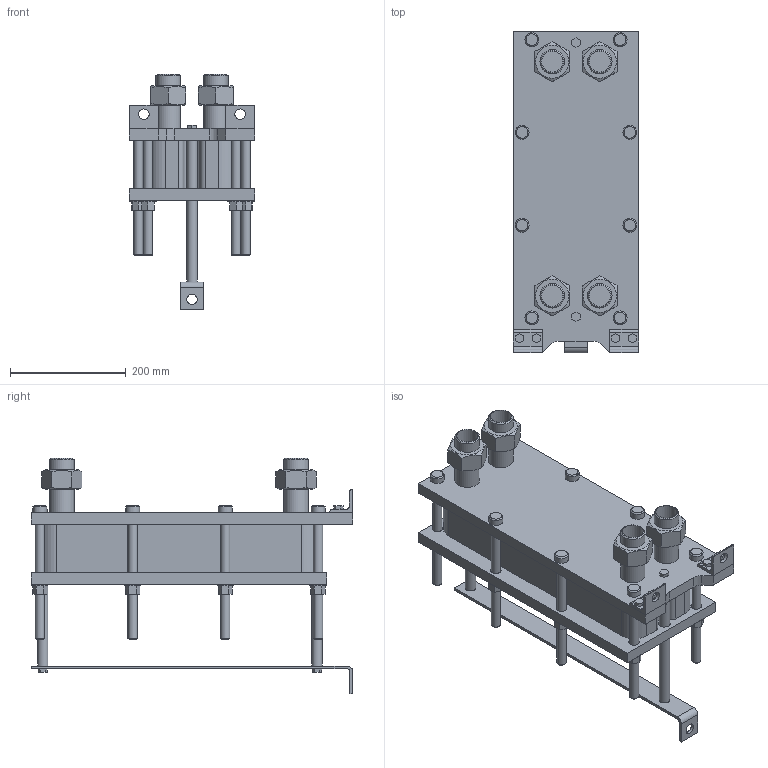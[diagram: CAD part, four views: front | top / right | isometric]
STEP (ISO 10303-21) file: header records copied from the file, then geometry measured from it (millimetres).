
FILE_DESCRIPTION(/* description */ (''),/* implementation_level */ '2;1');
FILE_NAME(/* name */ 'C:\Users\zhuro\Desktop\ENCO\TO\ЭН-004\ЭН-0,5-004-27-1.stp',/* time_stamp */ '2022-06-06T10:45:29+03:00',/* author */ ('zhuro'),/* organization */ (''),/* preprocessor_version */ 'ST-DEVELOPER v18.1',/* originating_system */ 'Autodesk Inventor 2022',/* authorisation */ '');
FILE_SCHEMA (('AUTOMOTIVE_DESIGN { 1 0 10303 214 3 1 1 }'));
Length unit declared in the file: millimetre
Products named in the file (1): ЭН-0,5-004-27-1
Bounding box: 216 x 555 x 406.6 mm (x, y, z)
Volume: 11775433.6 mm3; surface area: 1140322.2 mm2
Topology: 40 solids, 40 shells, 403 faces, 865 edges, 574 vertices
Faces by surface type: plane 272, cylinder 103, cone 28
Full cylindrical faces by diameter (mm): 10 x4, 16 x16, 18 x29, 20 x2, 24 x8, 28 x8, 36.3 x5, 42.3 x9
Entity records: 11137 total; most frequent: CARTESIAN_POINT 1939, DIRECTION 1879, ORIENTED_EDGE 1730, EDGE_CURVE 865, AXIS2_PLACEMENT_3D 658, VERTEX_POINT 574, LINE 563, VECTOR 563
